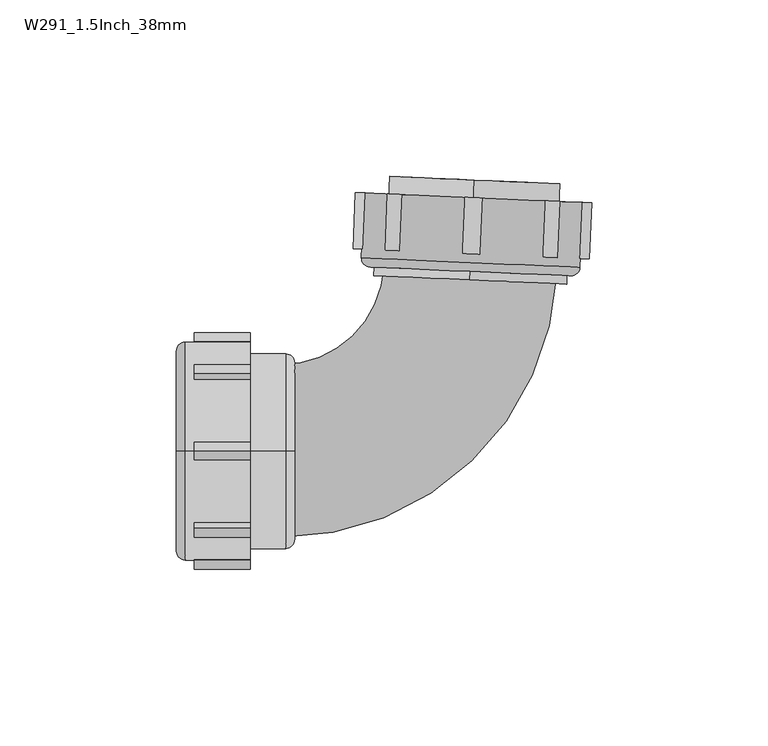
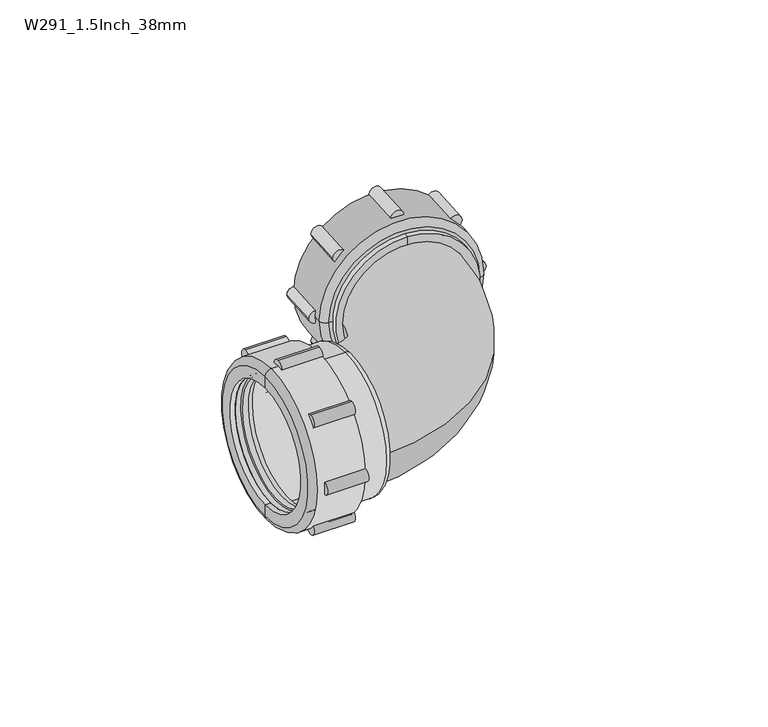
"""IFC4 building model written with IfcOpenShell, lengths in millimetres: pipe fitting geometry, Durapipe_PipeFitting_VulcatheneMechanical_92.5LooseNutSweepBend_W29 : W291_1.5Inch_38mm."""

from ifc_helpers import new_model, si_unit, point, frame, frame_2d, origin, place, context, project, spatial, polyline, circle_curve, ellipse_curve, trimmed, segment, composite_curve, outline, extrude, source, transform, mapped, element, save
from ifc_brep_helpers import plane_surface, cylinder_surface, revolved_surface, advanced_brep


def w291_1_5inch_38mm_fd510ec8(model_context):
    return source(origin(), model_context, "Body", "SolidModel", [
        advanced_brep(
        [(-16.1722158, 55.9403747, 18.5969083), (-14.6887049, 55.8756032, 17.1119841), (19.5026897, 54.3827747, -17.1119841), (20.9862006, 54.3180032, -18.5969083), (-15.6715454, 60.9232784, 18.3140656), (20.921724, 59.3255817, -18.3140656), (-15.3941862, 62.4125977, 18.1019336), (-15.4596153, 60.9140253, 18.1019336), (20.7097939, 59.3348348, -18.1019336), (20.775223, 60.8334071, -18.1019336), (19.7862157, 60.8765881, -17.1119841), (-14.4051789, 62.3694167, 17.1119841), (19.6989769, 58.8784917, -17.1119841), (-14.4924177, 60.3713202, 17.1119841), (19.1338299, 58.9031665, -16.5462987), (-13.9272707, 60.3466454, 16.5462987), (-14.5927423, 58.0735093, 17.1119841), (-14.0275952, 58.0488345, 16.5462987), (19.0335053, 56.6053556, -16.5462987), (19.5986523, 56.5806808, -17.1119841)],
        [
            (0, 1),
            (1, 2, circle_curve(frame((2.4069924, 55.129189, 0.0), z_axis=(0.04361938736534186, 0.9990482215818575, 0.0), x_axis=(0.7064337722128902, -0.030843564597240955, -0.7071067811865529)), 24.2)),
            (2, 3),
            (3, 0, circle_curve(frame((2.4069924, 55.129189, 0.0), z_axis=(-0.04361938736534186, -0.9990482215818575, 0.0), x_axis=(0.7064337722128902, -0.030843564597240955, -0.7071067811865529)), 26.3)),
            (2, 1, circle_curve(frame((2.4069924, 55.129189, 0.0), z_axis=(0.04361938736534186, 0.9990482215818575, 0.0), x_axis=(0.7064337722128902, -0.030843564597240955, -0.7071067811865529)), 24.2)),
            (0, 3, circle_curve(frame((2.4069924, 55.129189, 0.0), z_axis=(-0.04361938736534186, -0.9990482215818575, 0.0), x_axis=(0.7064337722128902, -0.030843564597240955, -0.7071067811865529)), 26.3)),
            (4, 0),
            (3, 5),
            (5, 4, circle_curve(frame((2.6250893, 60.1244301, 0.0), z_axis=(-0.04361938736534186, -0.9990482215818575, 0.0), x_axis=(0.7064337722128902, -0.030843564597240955, -0.7071067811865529)), 25.9)),
            (4, 5, circle_curve(frame((2.6250893, 60.1244301, 0.0), z_axis=(-0.04361938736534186, -0.9990482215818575, 0.0), x_axis=(0.7064337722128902, -0.030843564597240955, -0.7071067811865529)), 25.9)),
            (6, 7),
            (7, 8, circle_curve(frame((2.6250893, 60.1244301, 0.0), z_axis=(0.04361938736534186, 0.9990482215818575, 0.0), x_axis=(0.7064337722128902, -0.030843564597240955, -0.7071067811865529)), 25.6)),
            (8, 9),
            (9, 6, circle_curve(frame((2.6905184, 61.6230024, 0.0), z_axis=(-0.04361938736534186, -0.9990482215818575, 0.0), x_axis=(0.7064337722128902, -0.030843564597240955, -0.7071067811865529)), 25.6)),
            (8, 7, circle_curve(frame((2.6250893, 60.1244301, 0.0), z_axis=(0.04361938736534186, 0.9990482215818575, 0.0), x_axis=(0.7064337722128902, -0.030843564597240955, -0.7071067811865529)), 25.6)),
            (6, 9, circle_curve(frame((2.6905184, 61.6230024, 0.0), z_axis=(-0.04361938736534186, -0.9990482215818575, 0.0), x_axis=(0.7064337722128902, -0.030843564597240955, -0.7071067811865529)), 25.6)),
            (9, 10),
            (10, 11, circle_curve(frame((2.6905184, 61.6230024, 0.0), z_axis=(-0.04361938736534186, -0.9990482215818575, 0.0), x_axis=(0.7064337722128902, -0.030843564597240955, -0.7071067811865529)), 24.2)),
            (11, 6),
            (11, 10, circle_curve(frame((2.6905184, 61.6230024, 0.0), z_axis=(-0.04361938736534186, -0.9990482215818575, 0.0), x_axis=(0.7064337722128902, -0.030843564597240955, -0.7071067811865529)), 24.2)),
            (10, 12),
            (12, 13, circle_curve(frame((2.6032796, 59.624906, 0.0), z_axis=(-0.04361938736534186, -0.9990482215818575, 0.0), x_axis=(0.7064337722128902, -0.030843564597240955, -0.7071067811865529)), 24.2)),
            (13, 11),
            (13, 12, circle_curve(frame((2.6032796, 59.624906, 0.0), z_axis=(-0.04361938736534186, -0.9990482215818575, 0.0), x_axis=(0.7064337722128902, -0.030843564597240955, -0.7071067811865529)), 24.2)),
            (12, 14),
            (14, 15, circle_curve(frame((2.6032796, 59.624906, 0.0), z_axis=(-0.04361938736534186, -0.9990482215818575, 0.0), x_axis=(0.7064337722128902, -0.030843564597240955, -0.7071067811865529)), 23.4)),
            (15, 13),
            (15, 14, circle_curve(frame((2.6032796, 59.624906, 0.0), z_axis=(-0.04361938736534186, -0.9990482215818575, 0.0), x_axis=(0.7064337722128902, -0.030843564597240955, -0.7071067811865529)), 23.4)),
            (16, 17),
            (17, 18, circle_curve(frame((2.502955, 57.327095, 0.0), z_axis=(0.04361938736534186, 0.9990482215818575, 0.0), x_axis=(0.7064337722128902, -0.030843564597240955, -0.7071067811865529)), 23.4)),
            (18, 19),
            (19, 16, circle_curve(frame((2.502955, 57.327095, 0.0), z_axis=(-0.04361938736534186, -0.9990482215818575, 0.0), x_axis=(0.7064337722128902, -0.030843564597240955, -0.7071067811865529)), 24.2)),
            (18, 17, circle_curve(frame((2.502955, 57.327095, 0.0), z_axis=(0.04361938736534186, 0.9990482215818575, 0.0), x_axis=(0.7064337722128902, -0.030843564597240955, -0.7071067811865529)), 23.4)),
            (16, 19, circle_curve(frame((2.502955, 57.327095, 0.0), z_axis=(-0.04361938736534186, -0.9990482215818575, 0.0), x_axis=(0.7064337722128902, -0.030843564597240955, -0.7071067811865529)), 24.2)),
            (1, 16),
            (19, 2),
            (14, 18),
            (17, 15),
            (5, 8),
            (7, 4),
        ],
        [
            plane_surface(frame((2.4069924, 55.129189, 0.0), z_axis=(-0.04361938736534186, -0.9990482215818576, 0.0), x_axis=(0.7064337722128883, -0.030843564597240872, -0.707106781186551))),
            revolved_surface(polyline([(20.9862006, 54.3180032, -18.5969083), (20.921724, 59.3255817, -18.3140656)]), (2.1888954, 50.1339478, 0.0), (0.04361938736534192, 0.9990482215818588, 0.0)),
            cylinder_surface(frame((2.7808391, 63.6916873, 0.0), z_axis=(0.04361938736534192, 0.9990482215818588, 0.0), x_axis=(0.7064337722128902, -0.030843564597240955, -0.7071067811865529)), 25.6),
            plane_surface(frame((2.6905184, 61.6230024, 0.0), z_axis=(0.04361938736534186, 0.9990482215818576, 0.0), x_axis=(0.7064337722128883, -0.030843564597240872, -0.707106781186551))),
            revolved_surface(polyline([(19.78621566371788, 60.876588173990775, -17.11198410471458), (19.69897688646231, 58.878491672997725, -17.11198410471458)]), (2.8428805, 65.1126688, 0.0), (0.04361938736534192, 0.9990482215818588, 0.0)),
            plane_surface(frame((2.6032796, 59.624906, 0.0), z_axis=(0.04361938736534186, 0.9990482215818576, 0.0), x_axis=(0.7064337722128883, -0.030843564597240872, -0.707106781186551))),
            plane_surface(frame((2.502955, 57.327095, 0.0), z_axis=(-0.04361938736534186, -0.9990482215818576, 0.0), x_axis=(0.7064337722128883, -0.030843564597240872, -0.707106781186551))),
            revolved_surface(polyline([(19.598652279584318, 56.58068080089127, -17.11198410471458), (19.502689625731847, 54.3827746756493, -17.11198410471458)]), (2.1888954, 50.1339478, 0.0), (0.04361938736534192, 0.9990482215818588, 0.0)),
            revolved_surface(polyline([(19.133829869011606, 58.9031665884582, -16.546298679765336), (19.033505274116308, 56.60535558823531, -16.546298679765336)]), (2.338676, 53.5644872, 0.0), (0.04361938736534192, 0.9990482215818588, 0.0)),
            plane_surface(frame((2.6250893, 60.1244301, 0.0), z_axis=(0.04361938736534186, 0.9990482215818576, 0.0), x_axis=(0.7064337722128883, -0.030843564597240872, -0.707106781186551))),
        ],
        [
            (0, [[1, 2, 3, 4]]),
            (0, [[5, -1, 6, -3]]),
            (1, [[7, -4, 8, 9]]),
            (1, [[-8, -6, -7, 10]]),
            (2, [[11, 12, 13, 14]]),
            (2, [[15, -11, 16, -13]]),
            (3, [[17, 18, 19, -14]]),
            (3, [[-19, 20, -17, -16]]),
            (4, [[-18, 21, 22, 23]]),
            (4, [[24, -21, -20, -23]]),
            (5, [[25, 26, 27, -22]]),
            (5, [[-27, 28, -25, -24]]),
            (6, [[29, 30, 31, 32]]),
            (6, [[-31, 33, -29, 34]]),
            (7, [[35, -32, 36, -2]]),
            (7, [[-36, -34, -35, -5]]),
            (8, [[-26, 37, -30, 38]]),
            (8, [[-33, -37, -28, -38]]),
            (9, [[39, -12, 40, -9]]),
            (9, [[-40, -15, -39, -10]]),
        ],
    ),
        advanced_brep(
        [(-27.8350587, 73.1654953, 0.0), (-28.6376555, 54.783008, 0.0), (33.3033343, 52.078606, 0.0), (34.105931, 70.4610932, 0.0), (-22.8398176, 72.9473983, 0.0), (29.1106899, 70.6791902, 0.0), (-26.2490834, 52.176339, 0.0), (-21.7533664, 51.9800517, 0.0), (26.2009483, 49.8863211, 0.0), (30.6966653, 49.6900339, 0.0), (-23.5682614, 56.263293, 0.0), (28.3822461, 53.9950849, 0.0), (-21.5701649, 56.1760543, 0.0), (26.3841497, 54.0823237, 0.0)],
        [
            (0, 1),
            (1, 2, circle_curve(frame((2.3328394, 53.430807, 0.0), z_axis=(0.0436193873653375, 0.9990482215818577, 0.0), x_axis=(0.9990482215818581, -0.04361938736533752, 0.0)), 31.0)),
            (2, 3),
            (3, 0, circle_curve(frame((3.1354361, 71.8132943, 0.0), z_axis=(-0.0436193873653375, -0.9990482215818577, 0.0), x_axis=(0.9990482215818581, -0.04361938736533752, 0.0)), 31.0)),
            (2, 1, circle_curve(frame((2.3328394, 53.430807, 0.0), z_axis=(0.0436193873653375, 0.9990482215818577, 0.0), x_axis=(0.9990482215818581, -0.04361938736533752, 0.0)), 31.0)),
            (0, 3, circle_curve(frame((3.1354361, 71.8132943, 0.0), z_axis=(-0.0436193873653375, -0.9990482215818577, 0.0), x_axis=(0.9990482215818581, -0.04361938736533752, 0.0)), 31.0)),
            (4, 0),
            (3, 5),
            (5, 4, circle_curve(frame((3.1354361, 71.8132943, 0.0), z_axis=(-0.0436193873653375, -0.9990482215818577, 0.0), x_axis=(0.9990482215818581, -0.04361938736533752, 0.0)), 26.0)),
            (4, 5, circle_curve(frame((3.1354361, 71.8132943, 0.0), z_axis=(-0.0436193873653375, -0.9990482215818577, 0.0), x_axis=(0.9990482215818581, -0.04361938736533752, 0.0)), 26.0)),
            (6, 7),
            (7, 8, circle_curve(frame((2.2237909, 50.9331864, 0.0), z_axis=(0.0436193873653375, 0.9990482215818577, 0.0), x_axis=(0.9990482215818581, -0.04361938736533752, 0.0)), 24.0)),
            (8, 9),
            (9, 6, circle_curve(frame((2.2237909, 50.9331864, 0.0), z_axis=(-0.0436193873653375, -0.9990482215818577, 0.0), x_axis=(0.9990482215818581, -0.04361938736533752, 0.0)), 28.5)),
            (8, 7, circle_curve(frame((2.2237909, 50.9331864, 0.0), z_axis=(0.0436193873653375, 0.9990482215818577, 0.0), x_axis=(0.9990482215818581, -0.04361938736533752, 0.0)), 24.0)),
            (6, 9, circle_curve(frame((2.2237909, 50.9331864, 0.0), z_axis=(-0.0436193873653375, -0.9990482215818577, 0.0), x_axis=(0.9990482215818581, -0.04361938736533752, 0.0)), 28.5)),
            (1, 6, circle_curve(frame((-26.1400349, 54.6739595, 0.0), z_axis=(0.0, 0.0, 1.0000000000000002), x_axis=(-0.043619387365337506, -0.9990482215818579, 0.0)), 2.5)),
            (9, 2, circle_curve(frame((30.8057137, 52.1876544, 0.0), z_axis=(0.0, 0.0, 1.0000000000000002), x_axis=(-0.043619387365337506, -0.9990482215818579, 0.0)), 2.5)),
            (10, 4),
            (5, 11),
            (11, 10, circle_curve(frame((2.4069924, 55.129189, 0.0), z_axis=(-0.0436193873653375, -0.9990482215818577, 0.0), x_axis=(0.9990482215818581, -0.04361938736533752, 0.0)), 26.0)),
            (10, 11, circle_curve(frame((2.4069924, 55.129189, 0.0), z_axis=(-0.0436193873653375, -0.9990482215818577, 0.0), x_axis=(0.9990482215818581, -0.04361938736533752, 0.0)), 26.0)),
            (12, 10),
            (11, 13),
            (13, 12, circle_curve(frame((2.4069924, 55.129189, 0.0), z_axis=(-0.0436193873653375, -0.9990482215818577, 0.0), x_axis=(0.9990482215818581, -0.04361938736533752, 0.0)), 24.0)),
            (12, 13, circle_curve(frame((2.4069924, 55.129189, 0.0), z_axis=(-0.0436193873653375, -0.9990482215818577, 0.0), x_axis=(0.9990482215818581, -0.04361938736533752, 0.0)), 24.0)),
            (7, 12),
            (13, 8),
        ],
        [
            cylinder_surface(frame((-65.8574282, -1508.3830945, 0.0), z_axis=(0.043619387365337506, 0.9990482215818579, 0.0), x_axis=(0.9990482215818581, -0.04361938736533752, 0.0)), 31.0),
            plane_surface(frame((3.1354361, 71.8132943, 0.0), z_axis=(0.0436193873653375, 0.9990482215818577, 0.0), x_axis=(0.9990482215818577, -0.0436193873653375, 0.0))),
            plane_surface(frame((2.2237909, 50.9331864, 0.0), z_axis=(-0.0436193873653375, -0.9990482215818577, 0.0), x_axis=(0.9990482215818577, -0.0436193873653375, 0.0))),
            revolved_surface(trimmed(ellipse_curve(frame((30.8057137, 52.1876544, 0.0), z_axis=(0.0, 0.0, 1.0000000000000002), x_axis=(-0.043619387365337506, -0.9990482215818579, 0.0)), 2.5, 2.5), [point((30.6966653, 49.6900339, 0.0))], [point((33.3033343, 52.078606, 0.0))], True, "CARTESIAN"), (-65.8574282, -1508.3830945, 0.0), (0.043619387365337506, 0.9990482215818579, 0.0)),
            revolved_surface(polyline([(29.110689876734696, 70.67919022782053, 0.0), (28.382246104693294, 53.99508485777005, 0.0)]), (-65.8574282, -1508.3830945, 0.0), (0.043619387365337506, 0.9990482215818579, 0.0)),
            plane_surface(frame((2.4069924, 55.129189, 0.0), z_axis=(0.0436193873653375, 0.9990482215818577, 0.0), x_axis=(0.9990482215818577, -0.0436193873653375, 0.0))),
            revolved_surface(polyline([(26.38414966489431, 54.0823237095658, 0.0), (26.200948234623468, 49.88632110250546, 0.0)]), (-65.8574282, -1508.3830945, 0.0), (0.043619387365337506, 0.9990482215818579, 0.0)),
        ],
        [
            (0, [[1, 2, 3, 4]]),
            (0, [[-3, 5, -1, 6]]),
            (1, [[7, -4, 8, 9]]),
            (1, [[-8, -6, -7, 10]]),
            (2, [[11, 12, 13, 14]]),
            (2, [[-13, 15, -11, 16]]),
            (3, [[17, -14, 18, -2]]),
            (3, [[-18, -16, -17, -5]]),
            (4, [[19, -9, 20, 21]]),
            (4, [[-20, -10, -19, 22]]),
            (5, [[23, -21, 24, 25]]),
            (5, [[-24, -22, -23, 26]]),
            (6, [[27, -25, 28, -12]]),
            (6, [[-28, -26, -27, -15]]),
        ],
    ),
        extrude(outline(composite_curve([segment(trimmed(circle_curve(frame_2d((0.0, 2.4999999)), 2.5), [point((0.0, 5.0))], [point((0.0, 0.0))], False, "CARTESIAN"), True, "CONTINUOUS"), segment(trimmed(circle_curve(frame_2d((0.0, 2.4999999)), 2.5), [point((0.0, 0.0))], [point((0.0, 5.0))], False, "CARTESIAN"), True, "CONTINUOUS")], self_intersect=False)), frame((4.9395084, 55.8193791, -31.0), z_axis=(0.0436193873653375, 0.9990482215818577, 0.0), x_axis=(0.0, 0.0, -1.0)), (0.0, 0.0, 1.0), 15.9),
        extrude(outline(composite_curve([segment(trimmed(circle_curve(frame_2d((-9.0796898, -19.4203102)), 2.5), [point((-9.0796898, -16.9203103))], [point((-9.0796898, -21.9203103))], False, "CARTESIAN"), True, "CONTINUOUS"), segment(trimmed(circle_curve(frame_2d((-9.0796898, -19.4203102)), 2.5), [point((-9.0796898, -21.9203103))], [point((-9.0796898, -16.9203103))], False, "CARTESIAN"), True, "CONTINUOUS")], self_intersect=False)), frame((4.9395084, 55.8193791, -31.0), z_axis=(0.0436193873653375, 0.9990482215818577, 0.0), x_axis=(0.0, 0.0, -1.0)), (0.0, 0.0, 1.0), 15.9),
        extrude(outline(composite_curve([segment(trimmed(circle_curve(frame_2d((-31.0, -28.5000001)), 2.5), [point((-31.0, -26.0))], [point((-31.0, -31.0))], False, "CARTESIAN"), True, "CONTINUOUS"), segment(trimmed(circle_curve(frame_2d((-31.0, -28.5000001)), 2.5), [point((-31.0, -31.0))], [point((-31.0, -26.0))], False, "CARTESIAN"), True, "CONTINUOUS")], self_intersect=False)), frame((4.9395084, 55.8193791, -31.0), z_axis=(0.0436193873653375, 0.9990482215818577, 0.0), x_axis=(0.0, 0.0, -1.0)), (0.0, 0.0, 1.0), 15.9),
        extrude(outline(composite_curve([segment(trimmed(circle_curve(frame_2d((-52.9203102, -19.4203102)), 2.5), [point((-52.9203102, -16.9203103))], [point((-52.9203102, -21.9203103))], False, "CARTESIAN"), True, "CONTINUOUS"), segment(trimmed(circle_curve(frame_2d((-52.9203102, -19.4203102)), 2.5), [point((-52.9203102, -21.9203103))], [point((-52.9203102, -16.9203103))], False, "CARTESIAN"), True, "CONTINUOUS")], self_intersect=False)), frame((4.9395084, 55.8193791, -31.0), z_axis=(0.0436193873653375, 0.9990482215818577, 0.0), x_axis=(0.0, 0.0, -1.0)), (0.0, 0.0, 1.0), 15.9),
        extrude(outline(composite_curve([segment(trimmed(circle_curve(frame_2d((-62.0, 2.4999999)), 2.5), [point((-62.0, 5.0))], [point((-62.0, 0.0))], False, "CARTESIAN"), True, "CONTINUOUS"), segment(trimmed(circle_curve(frame_2d((-62.0, 2.4999999)), 2.5), [point((-62.0, 0.0))], [point((-62.0, 5.0))], False, "CARTESIAN"), True, "CONTINUOUS")], self_intersect=False)), frame((4.9395084, 55.8193791, -31.0), z_axis=(0.0436193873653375, 0.9990482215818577, 0.0), x_axis=(0.0, 0.0, -1.0)), (0.0, 0.0, 1.0), 15.9),
        extrude(outline(composite_curve([segment(trimmed(circle_curve(frame_2d((-52.9203102, 24.4203102)), 2.5), [point((-52.9203102, 26.9203102))], [point((-52.9203102, 21.9203102))], False, "CARTESIAN"), True, "CONTINUOUS"), segment(trimmed(circle_curve(frame_2d((-52.9203102, 24.4203102)), 2.5), [point((-52.9203102, 21.9203102))], [point((-52.9203102, 26.9203102))], False, "CARTESIAN"), True, "CONTINUOUS")], self_intersect=False)), frame((4.9395084, 55.8193791, -31.0), z_axis=(0.0436193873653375, 0.9990482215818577, 0.0), x_axis=(0.0, 0.0, -1.0)), (0.0, 0.0, 1.0), 15.9),
        extrude(outline(composite_curve([segment(trimmed(circle_curve(frame_2d((-31.0, 33.5)), 2.5), [point((-31.0, 35.9999999))], [point((-31.0, 30.9999999))], False, "CARTESIAN"), True, "CONTINUOUS"), segment(trimmed(circle_curve(frame_2d((-31.0, 33.5)), 2.5), [point((-31.0, 30.9999999))], [point((-31.0, 35.9999999))], False, "CARTESIAN"), True, "CONTINUOUS")], self_intersect=False)), frame((4.9395084, 55.8193791, -31.0), z_axis=(0.0436193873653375, 0.9990482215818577, 0.0), x_axis=(0.0, 0.0, -1.0)), (0.0, 0.0, 1.0), 15.9),
        extrude(outline(composite_curve([segment(trimmed(circle_curve(frame_2d((-9.0796898, 24.4203102)), 2.5), [point((-9.0796898, 26.9203102))], [point((-9.0796898, 21.9203102))], False, "CARTESIAN"), True, "CONTINUOUS"), segment(trimmed(circle_curve(frame_2d((-9.0796898, 24.4203102)), 2.5), [point((-9.0796898, 21.9203102))], [point((-9.0796898, 26.9203102))], False, "CARTESIAN"), True, "CONTINUOUS")], self_intersect=False)), frame((4.9395084, 55.8193791, -31.0), z_axis=(0.0436193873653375, 0.9990482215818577, 0.0), x_axis=(0.0, 0.0, -1.0)), (0.0, 0.0, 1.0), 15.9),
        advanced_brep(
        [(3.3535331, 76.8085354, 24.2), (3.3535331, 76.8085354, -24.2), (3.3535331, 76.8085354, -20.4), (3.3535331, 76.8085354, 20.4), (2.2237909, 50.9331864, 24.2), (2.2237909, 50.9331864, -24.2), (2.2237909, 50.9331864, 27.4), (2.2237909, 50.9331864, -27.4), (2.1191044, 48.5354707, 27.4), (2.1191044, 48.5354707, -27.4), (2.1191044, 48.5354707, 20.4), (2.1191044, 48.5354707, -20.4)],
        [
            (0, 1, circle_curve(frame((3.3535331, 76.8085354, 0.0), z_axis=(0.04361938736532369, 0.9990482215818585, 0.0), x_axis=(0.0, 0.0, -1.0)), 24.2)),
            (1, 2),
            (2, 3, circle_curve(frame((3.3535331, 76.8085354, 0.0), z_axis=(-0.04361938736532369, -0.9990482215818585, 0.0), x_axis=(0.0, 0.0, -1.0)), 20.4)),
            (3, 0),
            (1, 0, circle_curve(frame((3.3535331, 76.8085354, 0.0), z_axis=(0.04361938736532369, 0.9990482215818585, 0.0), x_axis=(0.0, 0.0, -1.0)), 24.2)),
            (3, 2, circle_curve(frame((3.3535331, 76.8085354, 0.0), z_axis=(-0.04361938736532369, -0.9990482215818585, 0.0), x_axis=(0.0, 0.0, -1.0)), 20.4)),
            (4, 5, circle_curve(frame((2.2237909, 50.9331864, 0.0), z_axis=(0.04361938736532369, 0.9990482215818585, 0.0), x_axis=(0.0, 0.0, -1.0)), 24.2)),
            (5, 1),
            (0, 4),
            (5, 4, circle_curve(frame((2.2237909, 50.9331864, 0.0), z_axis=(0.04361938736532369, 0.9990482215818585, 0.0), x_axis=(0.0, 0.0, -1.0)), 24.2)),
            (6, 7, circle_curve(frame((2.2237909, 50.9331864, 0.0), z_axis=(0.04361938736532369, 0.9990482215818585, 0.0), x_axis=(0.0, 0.0, -1.0)), 27.4)),
            (7, 5),
            (4, 6),
            (7, 6, circle_curve(frame((2.2237909, 50.9331864, 0.0), z_axis=(0.04361938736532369, 0.9990482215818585, 0.0), x_axis=(0.0, 0.0, -1.0)), 27.4)),
            (8, 9, circle_curve(frame((2.1191044, 48.5354707, 0.0), z_axis=(0.04361938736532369, 0.9990482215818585, 0.0), x_axis=(0.0, 0.0, -1.0)), 27.4)),
            (9, 7),
            (6, 8),
            (9, 8, circle_curve(frame((2.1191044, 48.5354707, 0.0), z_axis=(0.04361938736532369, 0.9990482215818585, 0.0), x_axis=(0.0, 0.0, -1.0)), 27.4)),
            (10, 11, circle_curve(frame((2.1191044, 48.5354707, 0.0), z_axis=(0.04361938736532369, 0.9990482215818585, 0.0), x_axis=(0.0, 0.0, -1.0)), 20.4)),
            (11, 9),
            (8, 10),
            (11, 10, circle_curve(frame((2.1191044, 48.5354707, 0.0), z_axis=(0.04361938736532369, 0.9990482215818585, 0.0), x_axis=(0.0, 0.0, -1.0)), 20.4)),
            (2, 11),
            (10, 3),
        ],
        [
            plane_surface(frame((3.3535331, 76.8085354, 0.0), z_axis=(0.04361938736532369, 0.9990482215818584, 0.0), x_axis=(0.0, 0.0, -1.0))),
            cylinder_surface(frame((3.789727, 86.7990176, 0.0), z_axis=(-0.043619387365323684, -0.9990482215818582, 0.0), x_axis=(0.0, 0.0, -1.0)), 24.2),
            plane_surface(frame((2.2237909, 50.9331864, 0.0), z_axis=(0.04361938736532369, 0.9990482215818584, 0.0), x_axis=(0.0, 0.0, -1.0))),
            cylinder_surface(frame((3.789727, 86.7990176, 0.0), z_axis=(-0.043619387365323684, -0.9990482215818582, 0.0), x_axis=(0.0, 0.0, -1.0)), 27.4),
            plane_surface(frame((2.1191044, 48.5354707, 0.0), z_axis=(-0.04361938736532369, -0.9990482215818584, 0.0), x_axis=(0.0, 0.0, -1.0))),
            revolved_surface(polyline([(2.1191044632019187, 48.53547069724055, -20.4), (3.3535331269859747, 76.80853539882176, -20.4)]), (3.789727, 86.7990176, 0.0), (-0.043619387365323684, -0.9990482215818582, 0.0)),
        ],
        [
            (0, [[1, 2, 3, 4]]),
            (0, [[5, -4, 6, -2]]),
            (1, [[7, 8, -1, 9]]),
            (1, [[10, -9, -5, -8]]),
            (2, [[11, 12, -7, 13]]),
            (2, [[14, -13, -10, -12]]),
            (3, [[15, 16, -11, 17]]),
            (3, [[18, -17, -14, -16]]),
            (4, [[19, 20, -15, 21]]),
            (4, [[22, -21, -18, -20]]),
            (5, [[-3, 23, -19, 24]]),
            (5, [[-6, -24, -22, -23]]),
        ],
    ),
        advanced_brep(
        [(-78.7065666, -18.5969083, -18.5969083), (-78.7065666, 18.5969083, 18.5969083), (-78.7065666, 17.1119841, 17.1119841), (-78.7065666, -17.1119841, -17.1119841), (-73.7065666, -18.3140656, -18.3140656), (-73.7065666, 18.3140656, 18.3140656), (-72.2065666, -18.1019336, -18.1019336), (-72.2065666, 18.1019336, 18.1019336), (-73.7065666, 18.1019336, 18.1019336), (-73.7065666, -18.1019336, -18.1019336), (-72.2065666, -17.1119841, -17.1119841), (-72.2065666, 17.1119841, 17.1119841), (-74.2065666, -17.1119841, -17.1119841), (-74.2065666, 17.1119841, 17.1119841), (-74.2065666, -16.5462987, -16.5462987), (-74.2065666, 16.5462987, 16.5462987), (-76.5065666, -17.1119841, -17.1119841), (-76.5065666, 17.1119841, 17.1119841), (-76.5065666, 16.5462987, 16.5462987), (-76.5065666, -16.5462987, -16.5462987)],
        [
            (0, 1, circle_curve(frame((-78.7065666, 0.0, 0.0), z_axis=(-1.0, 0.0, 0.0), x_axis=(0.0, 0.7071067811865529, 0.7071067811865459)), 26.3)),
            (1, 2),
            (2, 3, circle_curve(frame((-78.7065666, 0.0, 0.0), z_axis=(1.0, 0.0, 0.0), x_axis=(0.0, 0.7071067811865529, 0.7071067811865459)), 24.2)),
            (3, 0),
            (1, 0, circle_curve(frame((-78.7065666, 0.0, 0.0), z_axis=(-1.0, 0.0, 0.0), x_axis=(0.0, 0.7071067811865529, 0.7071067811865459)), 26.3)),
            (3, 2, circle_curve(frame((-78.7065666, 0.0, 0.0), z_axis=(1.0, 0.0, 0.0), x_axis=(0.0, 0.7071067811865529, 0.7071067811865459)), 24.2)),
            (4, 5, circle_curve(frame((-73.7065666, 0.0, 0.0), z_axis=(-1.0, 0.0, 0.0), x_axis=(0.0, 0.7071067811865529, 0.7071067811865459)), 25.9)),
            (5, 1),
            (0, 4),
            (5, 4, circle_curve(frame((-73.7065666, 0.0, 0.0), z_axis=(-1.0, 0.0, 0.0), x_axis=(0.0, 0.7071067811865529, 0.7071067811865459)), 25.9)),
            (6, 7, circle_curve(frame((-72.2065666, 0.0, 0.0), z_axis=(-1.0, 0.0, 0.0), x_axis=(0.0, 0.7071067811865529, 0.7071067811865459)), 25.6)),
            (7, 8),
            (8, 9, circle_curve(frame((-73.7065666, 0.0, 0.0), z_axis=(1.0, 0.0, 0.0), x_axis=(0.0, 0.7071067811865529, 0.7071067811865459)), 25.6)),
            (9, 6),
            (7, 6, circle_curve(frame((-72.2065666, 0.0, 0.0), z_axis=(-1.0, 0.0, 0.0), x_axis=(0.0, 0.7071067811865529, 0.7071067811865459)), 25.6)),
            (9, 8, circle_curve(frame((-73.7065666, 0.0, 0.0), z_axis=(1.0, 0.0, 0.0), x_axis=(0.0, 0.7071067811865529, 0.7071067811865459)), 25.6)),
            (6, 10),
            (10, 11, circle_curve(frame((-72.2065666, 0.0, 0.0), z_axis=(-1.0, 0.0, 0.0), x_axis=(0.0, 0.7071067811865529, 0.7071067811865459)), 24.2)),
            (11, 7),
            (11, 10, circle_curve(frame((-72.2065666, 0.0, 0.0), z_axis=(-1.0, 0.0, 0.0), x_axis=(0.0, 0.7071067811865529, 0.7071067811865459)), 24.2)),
            (10, 12),
            (12, 13, circle_curve(frame((-74.2065666, 0.0, 0.0), z_axis=(-1.0, 0.0, 0.0), x_axis=(0.0, 0.7071067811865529, 0.7071067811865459)), 24.2)),
            (13, 11),
            (13, 12, circle_curve(frame((-74.2065666, 0.0, 0.0), z_axis=(-1.0, 0.0, 0.0), x_axis=(0.0, 0.7071067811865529, 0.7071067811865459)), 24.2)),
            (12, 14),
            (14, 15, circle_curve(frame((-74.2065666, 0.0, 0.0), z_axis=(-1.0, 0.0, 0.0), x_axis=(0.0, 0.7071067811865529, 0.7071067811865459)), 23.4)),
            (15, 13),
            (15, 14, circle_curve(frame((-74.2065666, 0.0, 0.0), z_axis=(-1.0, 0.0, 0.0), x_axis=(0.0, 0.7071067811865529, 0.7071067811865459)), 23.4)),
            (16, 17, circle_curve(frame((-76.5065666, 0.0, 0.0), z_axis=(-1.0, 0.0, 0.0), x_axis=(0.0, 0.7071067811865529, 0.7071067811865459)), 24.2)),
            (17, 18),
            (18, 19, circle_curve(frame((-76.5065666, 0.0, 0.0), z_axis=(1.0, 0.0, 0.0), x_axis=(0.0, 0.7071067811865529, 0.7071067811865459)), 23.4)),
            (19, 16),
            (17, 16, circle_curve(frame((-76.5065666, 0.0, 0.0), z_axis=(-1.0, 0.0, 0.0), x_axis=(0.0, 0.7071067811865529, 0.7071067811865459)), 24.2)),
            (19, 18, circle_curve(frame((-76.5065666, 0.0, 0.0), z_axis=(1.0, 0.0, 0.0), x_axis=(0.0, 0.7071067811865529, 0.7071067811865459)), 23.4)),
            (2, 17),
            (16, 3),
            (14, 19),
            (18, 15),
            (4, 9),
            (8, 5),
        ],
        [
            plane_surface(frame((-78.7065666, 0.0, 0.0), z_axis=(-1.0, 0.0, 0.0), x_axis=(0.0, 0.707106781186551, 0.707106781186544))),
            revolved_surface(polyline([(-78.7065666, 18.5969083, 18.5969083), (-73.7065666, 18.3140656, 18.3140656)]), (-83.7065666, 0.0, 0.0), (1.0000000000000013, 0.0, 0.0)),
            cylinder_surface(frame((-70.1359108, 0.0, 0.0), z_axis=(1.0000000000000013, 0.0, 0.0), x_axis=(0.0, 0.7071067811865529, 0.7071067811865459)), 25.6),
            plane_surface(frame((-72.2065666, 0.0, 0.0), z_axis=(1.0, 0.0, 0.0), x_axis=(0.0, 0.707106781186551, 0.707106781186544))),
            revolved_surface(polyline([(-72.20656660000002, 17.11198410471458, 17.11198410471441), (-74.20656660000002, 17.11198410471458, 17.11198410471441)]), (-68.7135756, 0.0, 0.0), (1.0000000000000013, 0.0, 0.0)),
            plane_surface(frame((-74.2065666, 0.0, 0.0), z_axis=(1.0, 0.0, 0.0), x_axis=(0.0, 0.707106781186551, 0.707106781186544))),
            plane_surface(frame((-76.5065666, 0.0, 0.0), z_axis=(-1.0, 0.0, 0.0), x_axis=(0.0, 0.707106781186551, 0.707106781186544))),
            revolved_surface(polyline([(-76.50656659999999, 17.11198410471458, 17.11198410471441), (-78.70656659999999, 17.11198410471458, 17.11198410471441)]), (-83.7065666, 0.0, 0.0), (1.0000000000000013, 0.0, 0.0)),
            revolved_surface(polyline([(-74.20656659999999, 16.546298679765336, 16.546298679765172), (-76.50656659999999, 16.546298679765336, 16.546298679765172)]), (-80.272759, 0.0, 0.0), (1.0000000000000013, 0.0, 0.0)),
            plane_surface(frame((-73.7065666, 0.0, 0.0), z_axis=(1.0, 0.0, 0.0), x_axis=(0.0, 0.707106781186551, 0.707106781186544))),
        ],
        [
            (0, [[1, 2, 3, 4]]),
            (0, [[-2, 5, -4, 6]]),
            (1, [[7, 8, -1, 9]]),
            (1, [[10, -9, -5, -8]]),
            (2, [[11, 12, 13, 14]]),
            (2, [[-12, 15, -14, 16]]),
            (3, [[-11, 17, 18, 19]]),
            (3, [[-15, -19, 20, -17]]),
            (4, [[21, 22, 23, -18]]),
            (4, [[-21, -20, -23, 24]]),
            (5, [[-22, 25, 26, 27]]),
            (5, [[-24, -27, 28, -25]]),
            (6, [[29, 30, 31, 32]]),
            (6, [[33, -32, 34, -30]]),
            (7, [[-3, 35, -29, 36]]),
            (7, [[-6, -36, -33, -35]]),
            (8, [[37, -31, 38, -26]]),
            (8, [[-37, -28, -38, -34]]),
            (9, [[-7, 39, -13, 40]]),
            (9, [[-10, -40, -16, -39]]),
        ],
    ),
        advanced_brep(
        [(-60.2065666, 0.0, -31.0), (-60.2065666, 0.0, 31.0), (-78.6065666, 0.0, 31.0), (-78.6065666, 0.0, -31.0), (-60.2065666, 0.0, -27.7), (-60.2065666, 0.0, 27.7), (-81.1065666, 0.0, -28.5), (-81.1065666, 0.0, 28.5), (-81.1065666, 0.0, 24.0), (-81.1065666, 0.0, -24.0), (-78.7065666, 0.0, -26.0), (-78.7065666, 0.0, 26.0), (-51.4065666, 0.0, 26.0), (-51.4065666, 0.0, -26.0), (-78.7065666, 0.0, -24.0), (-78.7065666, 0.0, 24.0), (-50.1065666, 0.0, -27.7), (-50.1065666, 0.0, 27.7), (-47.6065666, 0.0, -25.2), (-47.6065666, 0.0, 25.2), (-47.6065666, 0.0, 0.0), (-51.4065666, 0.0, 0.0)],
        [
            (0, 1, circle_curve(frame((-60.2065666, 0.0, 0.0), z_axis=(-1.0, 0.0, 0.0), x_axis=(0.0, 0.0, 1.0000000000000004)), 31.0)),
            (1, 2),
            (2, 3, circle_curve(frame((-78.6065666, 0.0, 0.0), z_axis=(1.0, 0.0, 0.0), x_axis=(0.0, 0.0, 1.0000000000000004)), 31.0)),
            (3, 0),
            (1, 0, circle_curve(frame((-60.2065666, 0.0, 0.0), z_axis=(-1.0, 0.0, 0.0), x_axis=(0.0, 0.0, 1.0000000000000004)), 31.0)),
            (3, 2, circle_curve(frame((-78.6065666, 0.0, 0.0), z_axis=(1.0, 0.0, 0.0), x_axis=(0.0, 0.0, 1.0000000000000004)), 31.0)),
            (4, 5, circle_curve(frame((-60.2065666, 0.0, 0.0), z_axis=(-1.0, 0.0, 0.0), x_axis=(0.0, 0.0, 1.0000000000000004)), 27.7)),
            (5, 1),
            (0, 4),
            (5, 4, circle_curve(frame((-60.2065666, 0.0, 0.0), z_axis=(-1.0, 0.0, 0.0), x_axis=(0.0, 0.0, 1.0000000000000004)), 27.7)),
            (6, 7, circle_curve(frame((-81.1065666, 0.0, 0.0), z_axis=(-1.0, 0.0, 0.0), x_axis=(0.0, 0.0, 1.0000000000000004)), 28.5)),
            (7, 8),
            (8, 9, circle_curve(frame((-81.1065666, 0.0, 0.0), z_axis=(1.0, 0.0, 0.0), x_axis=(0.0, 0.0, 1.0000000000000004)), 24.0)),
            (9, 6),
            (7, 6, circle_curve(frame((-81.1065666, 0.0, 0.0), z_axis=(-1.0, 0.0, 0.0), x_axis=(0.0, 0.0, 1.0000000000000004)), 28.5)),
            (9, 8, circle_curve(frame((-81.1065666, 0.0, 0.0), z_axis=(1.0, 0.0, 0.0), x_axis=(0.0, 0.0, 1.0000000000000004)), 24.0)),
            (2, 7, circle_curve(frame((-78.6065666, 0.0, 28.5), z_axis=(0.0, -1.0000000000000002, 0.0), x_axis=(-1.0000000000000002, 0.0, 0.0)), 2.5)),
            (6, 3, circle_curve(frame((-78.6065666, 0.0, -28.5), z_axis=(0.0, -1.0000000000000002, 0.0), x_axis=(-1.0000000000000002, 0.0, 0.0)), 2.5)),
            (10, 11, circle_curve(frame((-78.7065666, 0.0, 0.0), z_axis=(-1.0, 0.0, 0.0), x_axis=(0.0, 0.0, 1.0000000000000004)), 26.0)),
            (11, 12),
            (12, 13, circle_curve(frame((-51.4065666, 0.0, 0.0), z_axis=(1.0, 0.0, 0.0), x_axis=(0.0, 0.0, 1.0000000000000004)), 26.0)),
            (13, 10),
            (11, 10, circle_curve(frame((-78.7065666, 0.0, 0.0), z_axis=(-1.0, 0.0, 0.0), x_axis=(0.0, 0.0, 1.0000000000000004)), 26.0)),
            (13, 12, circle_curve(frame((-51.4065666, 0.0, 0.0), z_axis=(1.0, 0.0, 0.0), x_axis=(0.0, 0.0, 1.0000000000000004)), 26.0)),
            (14, 15, circle_curve(frame((-78.7065666, 0.0, 0.0), z_axis=(-1.0, 0.0, 0.0), x_axis=(0.0, 0.0, 1.0000000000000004)), 24.0)),
            (15, 11),
            (10, 14),
            (15, 14, circle_curve(frame((-78.7065666, 0.0, 0.0), z_axis=(-1.0, 0.0, 0.0), x_axis=(0.0, 0.0, 1.0000000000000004)), 24.0)),
            (8, 15),
            (14, 9),
            (16, 17, circle_curve(frame((-50.1065666, 0.0, 0.0), z_axis=(-1.0, 0.0, 0.0), x_axis=(0.0, 0.0, 1.0000000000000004)), 27.7)),
            (17, 5),
            (4, 16),
            (17, 16, circle_curve(frame((-50.1065666, 0.0, 0.0), z_axis=(-1.0, 0.0, 0.0), x_axis=(0.0, 0.0, 1.0000000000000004)), 27.7)),
            (18, 19, circle_curve(frame((-47.6065666, 0.0, 0.0), z_axis=(-1.0, 0.0, 0.0), x_axis=(0.0, 0.0, 1.0000000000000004)), 25.2)),
            (19, 17, circle_curve(frame((-50.1065666, 0.0, 25.2), z_axis=(0.0, -1.0000000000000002, 0.0), x_axis=(-1.0000000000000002, 0.0, 0.0)), 2.5)),
            (16, 18, circle_curve(frame((-50.1065666, 0.0, -25.2), z_axis=(0.0, -1.0000000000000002, 0.0), x_axis=(-1.0000000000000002, 0.0, 0.0)), 2.5)),
            (19, 18, circle_curve(frame((-47.6065666, 0.0, 0.0), z_axis=(-1.0, 0.0, 0.0), x_axis=(0.0, 0.0, 1.0000000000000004)), 25.2)),
            (20, 19),
            (18, 20),
            (12, 21),
            (21, 13),
        ],
        [
            cylinder_surface(frame((-1641.9083849, 0.0, 0.0), z_axis=(1.0000000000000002, 0.0, 0.0), x_axis=(0.0, 0.0, 1.0000000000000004)), 31.0),
            plane_surface(frame((-60.2065666, 0.0, 0.0), z_axis=(1.0, 0.0, 0.0), x_axis=(0.0, 0.0, 1.0))),
            plane_surface(frame((-81.1065666, 0.0, 0.0), z_axis=(-1.0, 0.0, 0.0), x_axis=(0.0, 0.0, 1.0))),
            revolved_surface(trimmed(ellipse_curve(frame((-78.6065666, 0.0, 28.5), z_axis=(0.0, 1.0000000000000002, 0.0), x_axis=(-1.0000000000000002, 0.0, 0.0)), 2.5, 2.5), [point((-81.1065666, 0.0, 28.5))], [point((-78.6065666, 0.0, 31.0))], True, "CARTESIAN"), (-1641.9083849, 0.0, 0.0), (1.0000000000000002, 0.0, 0.0)),
            revolved_surface(polyline([(-51.406566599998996, 0.0, 26.00000000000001), (-78.70656659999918, 0.0, 26.00000000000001)]), (-1641.9083849, 0.0, 0.0), (1.0000000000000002, 0.0, 0.0)),
            plane_surface(frame((-78.7065666, 0.0, 0.0), z_axis=(1.0, 0.0, 0.0), x_axis=(0.0, 0.0, 1.0))),
            revolved_surface(polyline([(-78.70656659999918, 0.0, 24.00000000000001), (-81.10656659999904, 0.0, 24.00000000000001)]), (-1641.9083849, 0.0, 0.0), (1.0000000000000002, 0.0, 0.0)),
            cylinder_surface(frame((-1641.9083849, 0.0, 0.0), z_axis=(1.0000000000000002, 0.0, 0.0), x_axis=(0.0, 0.0, 1.0000000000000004)), 27.7),
            revolved_surface(trimmed(ellipse_curve(frame((-50.1065666, 0.0, 25.2), z_axis=(0.0, 1.0000000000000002, 0.0), x_axis=(-1.0000000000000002, 0.0, 0.0)), 2.5, 2.5), [point((-50.1065666, 0.0, 27.7))], [point((-47.6065666, 0.0, 25.2))], True, "CARTESIAN"), (-1641.9083849, 0.0, 0.0), (1.0000000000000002, 0.0, 0.0)),
            plane_surface(frame((-47.6065666, 0.0, 0.0), z_axis=(1.0, 0.0, 0.0), x_axis=(0.0, 0.0, 1.0))),
            plane_surface(frame((-51.4065666, 0.0, 0.0), z_axis=(-1.0, 0.0, 0.0), x_axis=(0.0, 0.0, 1.0))),
        ],
        [
            (0, [[1, 2, 3, 4]]),
            (0, [[5, -4, 6, -2]]),
            (1, [[7, 8, -1, 9]]),
            (1, [[10, -9, -5, -8]]),
            (2, [[11, 12, 13, 14]]),
            (2, [[15, -14, 16, -12]]),
            (3, [[-3, 17, -11, 18]]),
            (3, [[-6, -18, -15, -17]]),
            (4, [[19, 20, 21, 22]]),
            (4, [[23, -22, 24, -20]]),
            (5, [[25, 26, -19, 27]]),
            (5, [[28, -27, -23, -26]]),
            (6, [[-13, 29, -25, 30]]),
            (6, [[-16, -30, -28, -29]]),
            (7, [[31, 32, -7, 33]]),
            (7, [[34, -33, -10, -32]]),
            (8, [[35, 36, -31, 37]]),
            (8, [[38, -37, -34, -36]]),
            (9, [[39, -35, 40]]),
            (9, [[-40, -38, -39]]),
            (10, [[-21, 41, 42]]),
            (10, [[-24, -42, -41]]),
        ],
    ),
        extrude(outline(composite_curve([segment(trimmed(circle_curve(frame_2d((31.0, 0.0)), 2.5), [point((31.0, -2.5))], [point((31.0, 2.5))], False, "CARTESIAN"), True, "CONTINUOUS"), segment(trimmed(circle_curve(frame_2d((31.0, 0.0)), 2.5), [point((31.0, 2.5))], [point((31.0, -2.5))], False, "CARTESIAN"), True, "CONTINUOUS")], self_intersect=False)), frame((-76.1065666, 0.0, 0.0), z_axis=(1.0, 0.0, 0.0), x_axis=(0.0, 1.0, 0.0)), (0.0, 0.0, 1.0), 15.9),
        extrude(outline(composite_curve([segment(trimmed(circle_curve(frame_2d((21.9203102, 21.9203102)), 2.5), [point((21.9203102, 19.4203102))], [point((21.9203102, 24.4203102))], False, "CARTESIAN"), True, "CONTINUOUS"), segment(trimmed(circle_curve(frame_2d((21.9203102, 21.9203102)), 2.5), [point((21.9203102, 24.4203102))], [point((21.9203102, 19.4203102))], False, "CARTESIAN"), True, "CONTINUOUS")], self_intersect=False)), frame((-76.1065666, 0.0, 0.0), z_axis=(1.0, 0.0, 0.0), x_axis=(0.0, 1.0, 0.0)), (0.0, 0.0, 1.0), 15.9),
        extrude(outline(composite_curve([segment(trimmed(circle_curve(frame_2d((0.0, 31.0)), 2.5), [point((0.0, 28.5))], [point((0.0, 33.5))], False, "CARTESIAN"), True, "CONTINUOUS"), segment(trimmed(circle_curve(frame_2d((0.0, 31.0)), 2.5), [point((0.0, 33.5))], [point((0.0, 28.5))], False, "CARTESIAN"), True, "CONTINUOUS")], self_intersect=False)), frame((-76.1065666, 0.0, 0.0), z_axis=(1.0, 0.0, 0.0), x_axis=(0.0, 1.0, 0.0)), (0.0, 0.0, 1.0), 15.9),
        extrude(outline(composite_curve([segment(trimmed(circle_curve(frame_2d((-21.9203102, 21.9203102)), 2.5), [point((-21.9203102, 19.4203102))], [point((-21.9203102, 24.4203102))], False, "CARTESIAN"), True, "CONTINUOUS"), segment(trimmed(circle_curve(frame_2d((-21.9203102, 21.9203102)), 2.5), [point((-21.9203102, 24.4203102))], [point((-21.9203102, 19.4203102))], False, "CARTESIAN"), True, "CONTINUOUS")], self_intersect=False)), frame((-76.1065666, 0.0, 0.0), z_axis=(1.0, 0.0, 0.0), x_axis=(0.0, 1.0, 0.0)), (0.0, 0.0, 1.0), 15.9),
        extrude(outline(composite_curve([segment(trimmed(circle_curve(frame_2d((-31.0, 0.0)), 2.5), [point((-31.0, -2.5))], [point((-31.0, 2.5))], False, "CARTESIAN"), True, "CONTINUOUS"), segment(trimmed(circle_curve(frame_2d((-31.0, 0.0)), 2.5), [point((-31.0, 2.5))], [point((-31.0, -2.5))], False, "CARTESIAN"), True, "CONTINUOUS")], self_intersect=False)), frame((-76.1065666, 0.0, 0.0), z_axis=(1.0, 0.0, 0.0), x_axis=(0.0, 1.0, 0.0)), (0.0, 0.0, 1.0), 15.9),
        extrude(outline(composite_curve([segment(trimmed(circle_curve(frame_2d((-21.9203102, -21.9203102)), 2.5), [point((-21.9203102, -24.4203102))], [point((-21.9203102, -19.4203102))], False, "CARTESIAN"), True, "CONTINUOUS"), segment(trimmed(circle_curve(frame_2d((-21.9203102, -21.9203102)), 2.5), [point((-21.9203102, -19.4203102))], [point((-21.9203102, -24.4203102))], False, "CARTESIAN"), True, "CONTINUOUS")], self_intersect=False)), frame((-76.1065666, 0.0, 0.0), z_axis=(1.0, 0.0, 0.0), x_axis=(0.0, 1.0, 0.0)), (0.0, 0.0, 1.0), 15.9),
        extrude(outline(composite_curve([segment(trimmed(circle_curve(frame_2d((0.0, -31.0)), 2.5), [point((0.0, -33.5))], [point((0.0, -28.5))], False, "CARTESIAN"), True, "CONTINUOUS"), segment(trimmed(circle_curve(frame_2d((0.0, -31.0)), 2.5), [point((0.0, -28.5))], [point((0.0, -33.5))], False, "CARTESIAN"), True, "CONTINUOUS")], self_intersect=False)), frame((-76.1065666, 0.0, 0.0), z_axis=(1.0, 0.0, 0.0), x_axis=(0.0, 1.0, 0.0)), (0.0, 0.0, 1.0), 15.9),
        extrude(outline(composite_curve([segment(trimmed(circle_curve(frame_2d((21.9203102, -21.9203102)), 2.5), [point((21.9203102, -24.4203102))], [point((21.9203102, -19.4203102))], False, "CARTESIAN"), True, "CONTINUOUS"), segment(trimmed(circle_curve(frame_2d((21.9203102, -21.9203102)), 2.5), [point((21.9203102, -19.4203102))], [point((21.9203102, -24.4203102))], False, "CARTESIAN"), True, "CONTINUOUS")], self_intersect=False)), frame((-76.1065666, 0.0, 0.0), z_axis=(1.0, 0.0, 0.0), x_axis=(0.0, 1.0, 0.0)), (0.0, 0.0, 1.0), 15.9),
        advanced_brep(
        [(-51.4065666, -24.5, 0.0), (-51.4065666, 24.5, 0.0), (26.7190044, 50.2889639, 0.0), (-22.2343585, 52.4263139, 0.0)],
        [
            (0, 1, circle_curve(frame((-51.4065666, 0.0, 0.0), z_axis=(-1.0, 0.0, 0.0), x_axis=(0.0, 1.0, 0.0)), 24.5)),
            (1, 0, circle_curve(frame((-51.4065666, 0.0, 0.0), z_axis=(-1.0, 0.0, 0.0), x_axis=(0.0, 1.0, 0.0)), 24.5)),
            (2, 3, circle_curve(frame((2.2423229, 51.3576389, 0.0), z_axis=(0.0436193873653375, 0.9990482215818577, 0.0), x_axis=(-0.9990482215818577, 0.0436193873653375, 0.0)), 24.5)),
            (3, 2, circle_curve(frame((2.2423229, 51.3576389, 0.0), z_axis=(0.0436193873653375, 0.9990482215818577, 0.0), x_axis=(-0.9990482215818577, 0.0436193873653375, 0.0)), 24.5)),
            (3, 1, circle_curve(frame((-51.4065666, 53.7, 0.0), z_axis=(0.0, 0.0, -1.0), x_axis=(0.0, -1.0, 0.0)), 29.2)),
            (0, 2, circle_curve(frame((-51.4065666, 53.7, 0.0), z_axis=(0.0, 0.0, 1.0), x_axis=(0.0, -1.0, 0.0)), 78.2)),
        ],
        [
            plane_surface(frame((-51.4065666, 0.0, 0.0), z_axis=(-1.0, 0.0, 0.0), x_axis=(0.0, 0.0, 1.0))),
            plane_surface(frame((2.2423229, 51.3576389, 0.0), z_axis=(0.0436193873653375, 0.9990482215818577, 0.0), x_axis=(0.0, 0.0, 1.0))),
            revolved_surface(trimmed(ellipse_curve(frame((-51.4065666, 0.0, 0.0), z_axis=(-1.0, 0.0, 0.0), x_axis=(0.0, 1.0, 0.0)), 24.5, 24.5), [point((-51.4065666, -24.5, 0.0))], [point((-51.4065666, 24.5, 0.0))], True, "CARTESIAN"), (-51.4065666, 53.7, 0.0), (0.0, 0.0, 1.0)),
            revolved_surface(trimmed(ellipse_curve(frame((-51.4065666, 0.0, 0.0), z_axis=(-1.0, 0.0, 0.0), x_axis=(0.0, 1.0, 0.0)), 24.5, 24.5), [point((-51.4065666, 24.5, 0.0))], [point((-51.4065666, -24.5, 0.0))], True, "CARTESIAN"), (-51.4065666, 53.7, 0.0), (0.0, 0.0, 1.0)),
        ],
        [
            (0, [[1, 2]]),
            (1, [[3, 4]]),
            (2, [[5, -1, 6, -4]]),
            (3, [[-6, -2, -5, -3]]),
        ],
    ),
    ])


if __name__ == "__main__":
    model = new_model("IFC4")
    model_context = context("Model", 3, world=origin())
    ifc_project = project(units=[si_unit("LENGTHUNIT", "METRE", prefix="MILLI")], contexts=[model_context])
    site = spatial("IfcSite", under=ifc_project)
    building = spatial("IfcBuilding", under=site)
    placement = place(None, origin())
    w291_1_5inch_38mm_shape = w291_1_5inch_38mm_fd510ec8(model_context)
    element("IfcPipeFitting", 1, ObjectType="Durapipe_PipeFitting_VulcatheneMechanical_92.5LooseNutSweepBend_W29 : W291_1.5Inch_38mm", at=placement, inside=building, context=model_context, shape_type="MappedRepresentation", body=[
        mapped(w291_1_5inch_38mm_shape, transform((0.0, 0.0, 0.0), x_axis=(1.0, 0.0, 0.0), y_axis=(0.0, 1.0, 0.0), z_axis=(0.0, 0.0, 1.0))),
    ])
    save(model, "model.ifc")
